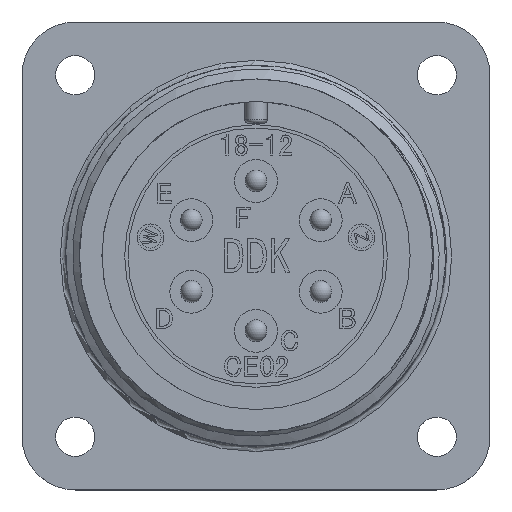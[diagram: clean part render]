
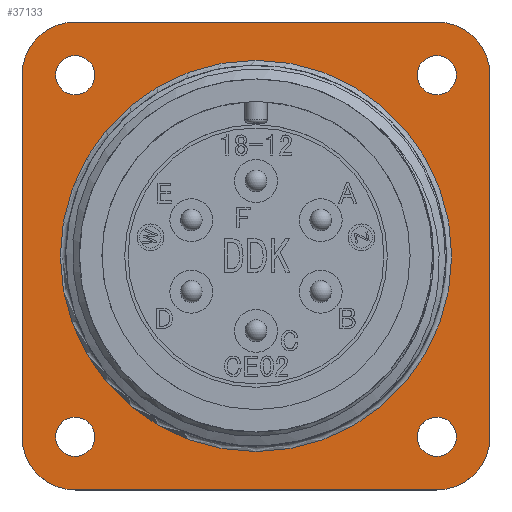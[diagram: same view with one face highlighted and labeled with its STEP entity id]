
A CAD part, top view. The second image highlights one B-rep face of the part: STEP entity #37133.
In plain terms, the highlighted planar face has unit normal (0, 0, 1).
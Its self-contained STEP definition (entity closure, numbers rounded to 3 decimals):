
#320 = AXIS2_PLACEMENT_3D ( 'NONE', #28443, #5537, #362 ) ;
#362 = DIRECTION ( 'NONE',  ( -1., 0., 0. ) ) ;
#699 = VERTEX_POINT ( 'NONE', #4457 ) ;
#757 = CIRCLE ( 'NONE', #26860, 3.97 ) ;
#775 = VERTEX_POINT ( 'NONE', #10717 ) ;
#896 = AXIS2_PLACEMENT_3D ( 'NONE', #4520, #15797, #24644 ) ;
#1083 = CARTESIAN_POINT ( 'NONE',  ( 13.49, -17.46, -19.24 ) ) ;
#1326 = DIRECTION ( 'NONE',  ( -1., 0., 0. ) ) ;
#1494 = DIRECTION ( 'NONE',  ( -1., 0., 0. ) ) ;
#1807 = CARTESIAN_POINT ( 'NONE',  ( 13.49, 17.46, -19.24 ) ) ;
#2307 = VERTEX_POINT ( 'NONE', #1083 ) ;
#2375 = VECTOR ( 'NONE', #30540, 1000. ) ;
#2524 = VECTOR ( 'NONE', #11710, 1000. ) ;
#2682 = EDGE_CURVE ( 'NONE', #6219, #6219, #3651, .T. ) ;
#3044 = VERTEX_POINT ( 'NONE', #14318 ) ;
#3057 = FACE_BOUND ( 'NONE', #23094, .T. ) ;
#3068 = EDGE_LOOP ( 'NONE', ( #3354 ) ) ;
#3094 = ORIENTED_EDGE ( 'NONE', *, *, #7541, .F. ) ;
#3144 = LINE ( 'NONE', #27926, #17637 ) ;
#3354 = ORIENTED_EDGE ( 'NONE', *, *, #29140, .T. ) ;
#3376 = CARTESIAN_POINT ( 'NONE',  ( 13.49, -17.46, -19.24 ) ) ;
#3431 = CIRCLE ( 'NONE', #22048, 3.97 ) ;
#3453 = CARTESIAN_POINT ( 'NONE',  ( 13.495, 13.495, -19.24 ) ) ;
#3651 = CIRCLE ( 'NONE', #36680, 1.465 ) ;
#4457 = CARTESIAN_POINT ( 'NONE',  ( -17.46, -13.49, -19.24 ) ) ;
#4520 = CARTESIAN_POINT ( 'NONE',  ( -13.495, 13.495, -19.24 ) ) ;
#4646 = DIRECTION ( 'NONE',  ( 0., -1., 0. ) ) ;
#4667 = VECTOR ( 'NONE', #34764, 1000. ) ;
#5320 = AXIS2_PLACEMENT_3D ( 'NONE', #15757, #18651, #1326 ) ;
#5537 = DIRECTION ( 'NONE',  ( 0., 0., -1. ) ) ;
#5717 = CIRCLE ( 'NONE', #26695, 1.465 ) ;
#6177 = DIRECTION ( 'NONE',  ( 0., 0., -1. ) ) ;
#6219 = VERTEX_POINT ( 'NONE', #8072 ) ;
#6335 = DIRECTION ( 'NONE',  ( -1., 0., 0. ) ) ;
#6599 = EDGE_LOOP ( 'NONE', ( #22270 ) ) ;
#6845 = EDGE_LOOP ( 'NONE', ( #26352, #7535, #23472, #35739, #19909, #32243, #3094, #22261 ) ) ;
#7535 = ORIENTED_EDGE ( 'NONE', *, *, #25047, .F. ) ;
#7541 = EDGE_CURVE ( 'NONE', #3044, #699, #21949, .T. ) ;
#8072 = CARTESIAN_POINT ( 'NONE',  ( 12.03, 13.495, -19.24 ) ) ;
#8368 = ORIENTED_EDGE ( 'NONE', *, *, #23593, .T. ) ;
#8980 = CARTESIAN_POINT ( 'NONE',  ( 13.495, -13.495, -19.24 ) ) ;
#9136 = DIRECTION ( 'NONE',  ( 0., 0., -1. ) ) ;
#9235 = VERTEX_POINT ( 'NONE', #12115 ) ;
#9286 = EDGE_LOOP ( 'NONE', ( #33430 ) ) ;
#9293 = EDGE_CURVE ( 'NONE', #2307, #3044, #22788, .T. ) ;
#10319 = CARTESIAN_POINT ( 'NONE',  ( -13.495, -13.495, -19.24 ) ) ;
#10437 = DIRECTION ( 'NONE',  ( 0., 0., -1. ) ) ;
#10717 = CARTESIAN_POINT ( 'NONE',  ( -14.6, 0., -19.24 ) ) ;
#10980 = DIRECTION ( 'NONE',  ( 0., 0., -1. ) ) ;
#11319 = VERTEX_POINT ( 'NONE', #1807 ) ;
#11710 = DIRECTION ( 'NONE',  ( 1., 0., 0. ) ) ;
#12115 = CARTESIAN_POINT ( 'NONE',  ( 17.46, 13.49, -19.24 ) ) ;
#12579 = FACE_BOUND ( 'NONE', #28406, .T. ) ;
#12817 = LINE ( 'NONE', #24982, #2375 ) ;
#13477 = FACE_BOUND ( 'NONE', #3068, .T. ) ;
#14318 = CARTESIAN_POINT ( 'NONE',  ( -13.49, -17.46, -19.24 ) ) ;
#14363 = VERTEX_POINT ( 'NONE', #30821 ) ;
#14854 = EDGE_CURVE ( 'NONE', #11319, #9235, #25545, .T. ) ;
#15011 = AXIS2_PLACEMENT_3D ( 'NONE', #17313, #10980, #25542 ) ;
#15757 = CARTESIAN_POINT ( 'NONE',  ( 0., 0., -19.24 ) ) ;
#15797 = DIRECTION ( 'NONE',  ( 0., 0., -1. ) ) ;
#15994 = VERTEX_POINT ( 'NONE', #37155 ) ;
#17313 = CARTESIAN_POINT ( 'NONE',  ( -13.49, -13.49, -19.24 ) ) ;
#17634 = DIRECTION ( 'NONE',  ( -1., 0., 0. ) ) ;
#17637 = VECTOR ( 'NONE', #4646, 1000. ) ;
#18138 = EDGE_CURVE ( 'NONE', #14363, #14363, #32622, .T. ) ;
#18651 = DIRECTION ( 'NONE',  ( 0., 0., -1. ) ) ;
#19282 = ORIENTED_EDGE ( 'NONE', *, *, #18138, .T. ) ;
#19909 = ORIENTED_EDGE ( 'NONE', *, *, #23498, .F. ) ;
#20154 = DIRECTION ( 'NONE',  ( 0., 0., -1. ) ) ;
#21608 = DIRECTION ( 'NONE',  ( 0., 0., -1. ) ) ;
#21949 = CIRCLE ( 'NONE', #15011, 3.97 ) ;
#22048 = AXIS2_PLACEMENT_3D ( 'NONE', #31913, #20154, #17634 ) ;
#22261 = ORIENTED_EDGE ( 'NONE', *, *, #9293, .F. ) ;
#22270 = ORIENTED_EDGE ( 'NONE', *, *, #2682, .T. ) ;
#22788 = LINE ( 'NONE', #3376, #4667 ) ;
#23094 = EDGE_LOOP ( 'NONE', ( #19282 ) ) ;
#23472 = ORIENTED_EDGE ( 'NONE', *, *, #14854, .F. ) ;
#23498 = EDGE_CURVE ( 'NONE', #36834, #15994, #757, .T. ) ;
#23593 = EDGE_CURVE ( 'NONE', #25694, #25694, #33318, .T. ) ;
#24472 = DIRECTION ( 'NONE',  ( -1., 0., 0. ) ) ;
#24644 = DIRECTION ( 'NONE',  ( 1., 0., 0. ) ) ;
#24812 = VERTEX_POINT ( 'NONE', #33624 ) ;
#24982 = CARTESIAN_POINT ( 'NONE',  ( -17.46, 13.49, -19.24 ) ) ;
#25047 = EDGE_CURVE ( 'NONE', #9235, #24812, #3144, .T. ) ;
#25542 = DIRECTION ( 'NONE',  ( -1., 0., 0. ) ) ;
#25545 = CIRCLE ( 'NONE', #320, 3.97 ) ;
#25694 = VERTEX_POINT ( 'NONE', #28291 ) ;
#26352 = ORIENTED_EDGE ( 'NONE', *, *, #29892, .F. ) ;
#26472 = PLANE ( 'NONE',  #30405 ) ;
#26695 = AXIS2_PLACEMENT_3D ( 'NONE', #10319, #10437, #24472 ) ;
#26860 = AXIS2_PLACEMENT_3D ( 'NONE', #30571, #21608, #1494 ) ;
#26993 = LINE ( 'NONE', #29026, #2524 ) ;
#27127 = DIRECTION ( 'NONE',  ( 0., 0., -1. ) ) ;
#27531 = FACE_BOUND ( 'NONE', #6599, .T. ) ;
#27668 = EDGE_CURVE ( 'NONE', #775, #775, #27968, .T. ) ;
#27926 = CARTESIAN_POINT ( 'NONE',  ( 17.46, 13.49, -19.24 ) ) ;
#27968 = CIRCLE ( 'NONE', #5320, 14.6 ) ;
#28291 = CARTESIAN_POINT ( 'NONE',  ( -12.03, 13.495, -19.24 ) ) ;
#28406 = EDGE_LOOP ( 'NONE', ( #8368 ) ) ;
#28443 = CARTESIAN_POINT ( 'NONE',  ( 13.49, 13.49, -19.24 ) ) ;
#29026 = CARTESIAN_POINT ( 'NONE',  ( 13.49, 17.46, -19.24 ) ) ;
#29140 = EDGE_CURVE ( 'NONE', #35175, #35175, #5717, .T. ) ;
#29194 = DIRECTION ( 'NONE',  ( 1., 0., 0. ) ) ;
#29523 = DIRECTION ( 'NONE',  ( -1., 0., 0. ) ) ;
#29615 = EDGE_CURVE ( 'NONE', #15994, #11319, #26993, .T. ) ;
#29892 = EDGE_CURVE ( 'NONE', #24812, #2307, #3431, .T. ) ;
#30405 = AXIS2_PLACEMENT_3D ( 'NONE', #32013, #9136, #6335 ) ;
#30540 = DIRECTION ( 'NONE',  ( 0., 1., 0. ) ) ;
#30571 = CARTESIAN_POINT ( 'NONE',  ( -13.49, 13.49, -19.24 ) ) ;
#30821 = CARTESIAN_POINT ( 'NONE',  ( 14.96, -13.495, -19.24 ) ) ;
#31610 = AXIS2_PLACEMENT_3D ( 'NONE', #8980, #6177, #29194 ) ;
#31913 = CARTESIAN_POINT ( 'NONE',  ( 13.49, -13.49, -19.24 ) ) ;
#32013 = CARTESIAN_POINT ( 'NONE',  ( 13.49, -13.49, -19.24 ) ) ;
#32243 = ORIENTED_EDGE ( 'NONE', *, *, #32609, .F. ) ;
#32609 = EDGE_CURVE ( 'NONE', #699, #36834, #12817, .T. ) ;
#32622 = CIRCLE ( 'NONE', #31610, 1.465 ) ;
#33312 = CARTESIAN_POINT ( 'NONE',  ( -17.46, 13.49, -19.24 ) ) ;
#33318 = CIRCLE ( 'NONE', #896, 1.465 ) ;
#33430 = ORIENTED_EDGE ( 'NONE', *, *, #27668, .T. ) ;
#33624 = CARTESIAN_POINT ( 'NONE',  ( 17.46, -13.49, -19.24 ) ) ;
#34764 = DIRECTION ( 'NONE',  ( -1., 0., 0. ) ) ;
#35175 = VERTEX_POINT ( 'NONE', #37392 ) ;
#35215 = FACE_BOUND ( 'NONE', #9286, .T. ) ;
#35656 = FACE_OUTER_BOUND ( 'NONE', #6845, .T. ) ;
#35739 = ORIENTED_EDGE ( 'NONE', *, *, #29615, .F. ) ;
#36680 = AXIS2_PLACEMENT_3D ( 'NONE', #3453, #27127, #29523 ) ;
#36834 = VERTEX_POINT ( 'NONE', #33312 ) ;
#37133 = ADVANCED_FACE ( 'NONE', ( #35215, #35656, #27531, #3057, #13477, #12579 ), #26472, .F. ) ;
#37155 = CARTESIAN_POINT ( 'NONE',  ( -13.49, 17.46, -19.24 ) ) ;
#37392 = CARTESIAN_POINT ( 'NONE',  ( -14.96, -13.495, -19.24 ) ) ;
